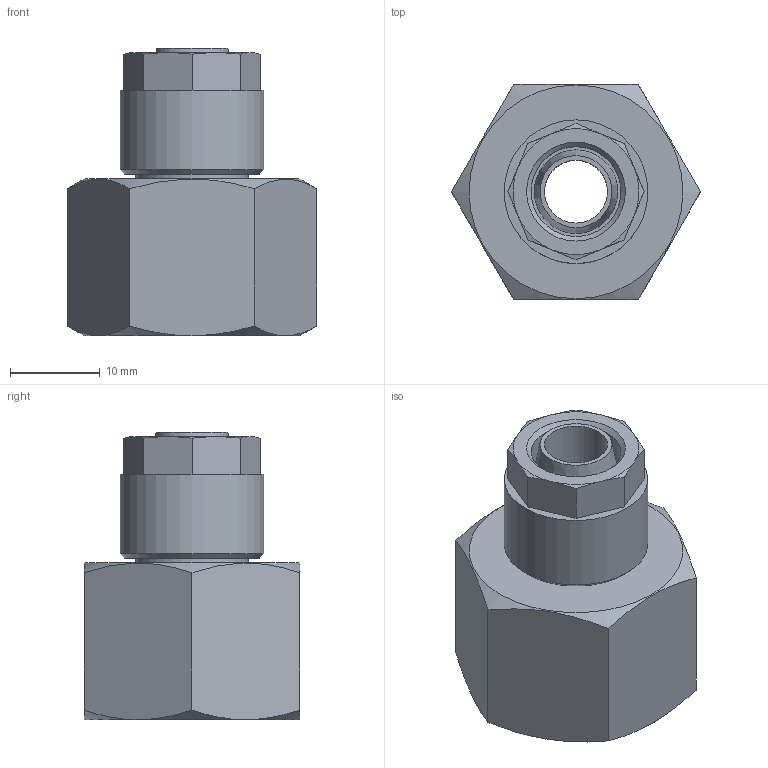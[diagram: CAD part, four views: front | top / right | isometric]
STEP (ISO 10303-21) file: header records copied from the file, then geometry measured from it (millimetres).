
FILE_DESCRIPTION(/* description */ (''),/* implementation_level */ '2;1');
FILE_NAME(/* name */ '10312_302_108_G12_26.06.17',/* time_stamp */ '2017-06-26T15:50:47+02:00',/* author */ (''),/* organization */ (''),/* preprocessor_version */ 'ST-DEVELOPER v16.5',/* originating_system */ 'HiCAD 2016 2102.2 Build 618',/* authorisation */ '');
FILE_SCHEMA (('AUTOMOTIVE_DESIGN { 1 0 10303 214 1 1 1 1 }'));
Length unit declared in the file: millimetre
Products named in the file (3): Root; 17007; R10311
Assembly tree (2 placements, depth 2):
  Root
    17007
    R10311
Bounding box: 27.71 x 24 x 32 mm (x, y, z)
Volume: 6209 mm3; surface area: 5414.8 mm2
Topology: 2 solids, 2 shells, 55 faces, 122 edges, 76 vertices
Faces by surface type: cone 23, plane 23, cylinder 8, torus 1
Full cylindrical faces by diameter (mm): 7 x1, 8.5 x1, 10 x1, 12.5 x1, 12.773 x1, 14 x1, 16 x1, 18.631 x1
Entity records: 2387 total; most frequent: DIRECTION 286, CARTESIAN_POINT 221, PRESENTATION_STYLE_ASSIGNMENT 192, COLOUR_RGB 191, DRAUGHTING_PRE_DEFINED_CURVE_FONT 190, CURVE_STYLE 190, OVER_RIDING_STYLED_ITEM 190, ORIENTED_EDGE 190
